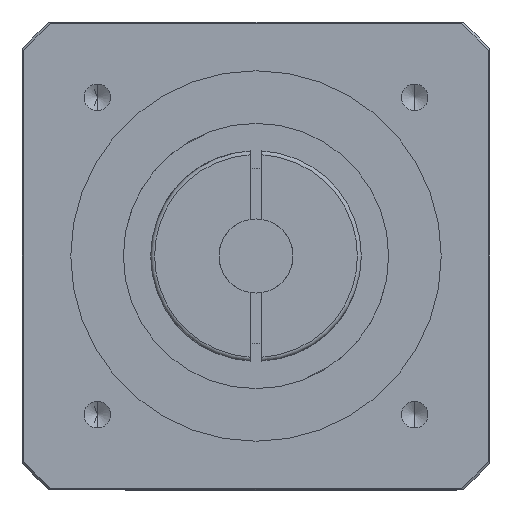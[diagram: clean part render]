
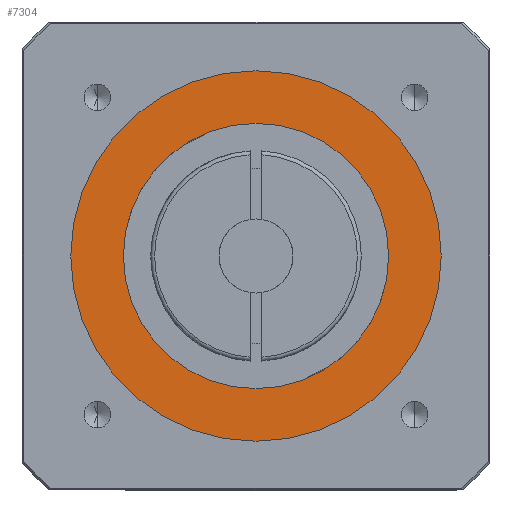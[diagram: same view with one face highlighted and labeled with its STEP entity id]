
A CAD part, front view. The second image highlights one B-rep face of the part: STEP entity #7304.
In plain terms, the highlighted planar face has unit normal (0, -1, 0).
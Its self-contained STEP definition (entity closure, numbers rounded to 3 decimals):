
#242 = ORIENTED_EDGE ( 'NONE', *, *, #4787, .T. ) ;
#243 = ORIENTED_EDGE ( 'NONE', *, *, #4930, .T. ) ;
#244 = ORIENTED_EDGE ( 'NONE', *, *, #4615, .T. ) ;
#245 = ORIENTED_EDGE ( 'NONE', *, *, #4747, .T. ) ;
#636 = EDGE_LOOP ( 'NONE', ( #242, #243 ) ) ;
#949 = VERTEX_POINT ( 'NONE', #6095 ) ;
#950 = VERTEX_POINT ( 'NONE', #6096 ) ;
#1410 = FACE_OUTER_BOUND ( 'NONE', #636, .T. ) ;
#1418 = FACE_BOUND ( 'NONE', #1861, .T. ) ;
#1861 = EDGE_LOOP ( 'NONE', ( #244, #245 ) ) ;
#1935 = VERTEX_POINT ( 'NONE', #6202 ) ;
#1955 = VERTEX_POINT ( 'NONE', #6222 ) ;
#2014 = CIRCLE ( 'NONE', #5009, 34. ) ;
#2168 = CIRCLE ( 'NONE', #5051, 34. ) ;
#2215 = CIRCLE ( 'NONE', #5070, 47.5 ) ;
#2357 = CIRCLE ( 'NONE', #2790, 47.5 ) ;
#2790 = AXIS2_PLACEMENT_3D ( 'NONE', #4148, #4149, #4150 ) ;
#3071 = AXIS2_PLACEMENT_3D ( 'NONE', #6714, #6719, #6720 ) ;
#3930 = CARTESIAN_POINT ( 'NONE',  ( 0., -104.2, 0. ) ) ;
#3931 = DIRECTION ( 'NONE',  ( 0., 1., 0. ) ) ;
#3932 = DIRECTION ( 'NONE',  ( 0., 0., -1. ) ) ;
#4138 = CARTESIAN_POINT ( 'NONE',  ( 0., -104.2, 0. ) ) ;
#4139 = DIRECTION ( 'NONE',  ( 0., -1., 0. ) ) ;
#4140 = DIRECTION ( 'NONE',  ( 0., 0., -1. ) ) ;
#4148 = CARTESIAN_POINT ( 'NONE',  ( 0., -104.2, 0. ) ) ;
#4149 = DIRECTION ( 'NONE',  ( 0., -1., 0. ) ) ;
#4150 = DIRECTION ( 'NONE',  ( 0., 0., -1. ) ) ;
#4615 = EDGE_CURVE ( 'NONE', #1935, #1955, #2014, .T. ) ;
#4747 = EDGE_CURVE ( 'NONE', #1955, #1935, #2168, .T. ) ;
#4787 = EDGE_CURVE ( 'NONE', #949, #950, #2215, .T. ) ;
#4930 = EDGE_CURVE ( 'NONE', #950, #949, #2357, .T. ) ;
#5009 = AXIS2_PLACEMENT_3D ( 'NONE', #6400, #6401, #6402 ) ;
#5051 = AXIS2_PLACEMENT_3D ( 'NONE', #3930, #3931, #3932 ) ;
#5070 = AXIS2_PLACEMENT_3D ( 'NONE', #4138, #4139, #4140 ) ;
#6095 = CARTESIAN_POINT ( 'NONE',  ( 0., -104.2, -47.5 ) ) ;
#6096 = CARTESIAN_POINT ( 'NONE',  ( 0., -104.2, 47.5 ) ) ;
#6202 = CARTESIAN_POINT ( 'NONE',  ( 0., -104.2, -34. ) ) ;
#6222 = CARTESIAN_POINT ( 'NONE',  ( 0., -104.2, 34. ) ) ;
#6400 = CARTESIAN_POINT ( 'NONE',  ( 0., -104.2, 0. ) ) ;
#6401 = DIRECTION ( 'NONE',  ( 0., 1., 0. ) ) ;
#6402 = DIRECTION ( 'NONE',  ( 0., 0., -1. ) ) ;
#6714 = CARTESIAN_POINT ( 'NONE',  ( 0., -104.2, 0. ) ) ;
#6717 = PLANE ( 'NONE',  #3071 ) ;
#6719 = DIRECTION ( 'NONE',  ( 0., -1., 0. ) ) ;
#6720 = DIRECTION ( 'NONE',  ( 0., 0., -1. ) ) ;
#7304 = ADVANCED_FACE ( 'NONE', ( #1410, #1418 ), #6717, .T. ) ;
